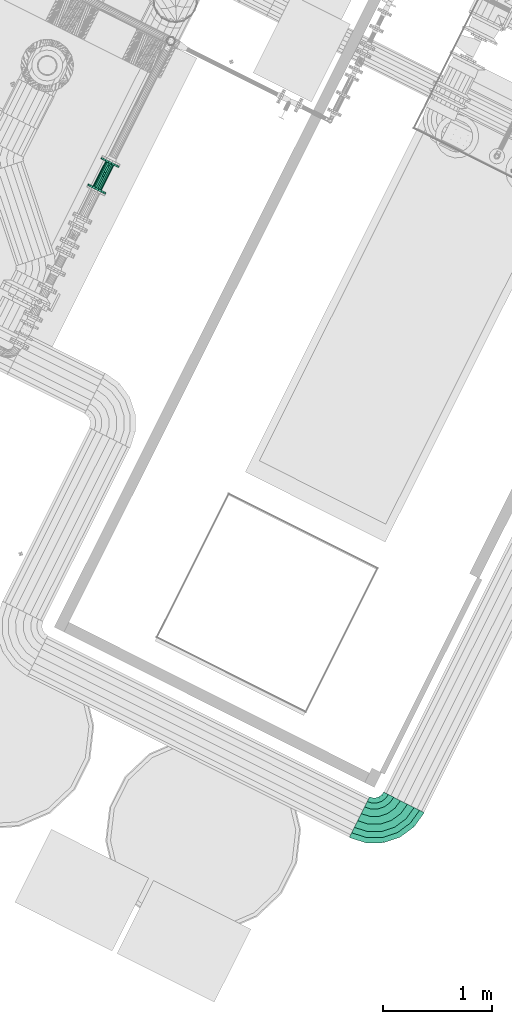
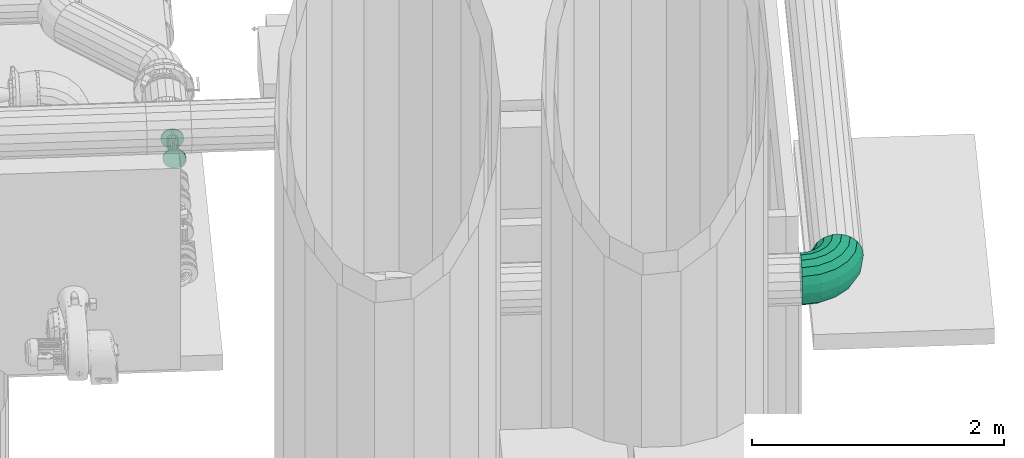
# One storey, part 82 of 206: 1 flow controller, 1 flow segment.
"""IFC2X3 building model written with IfcOpenShell, lengths in metres."""

from ifc_helpers import new_model, si_unit, derived_unit, direction, frame, origin, place, context, subcontext, project, spatial, face_set, surface_model, source, transform, mapped, material, type_object, type_shapes, element, save


model = new_model("IFC2X3")

# Units and contexts
model_context = context("Model", 3, precision=5.2338327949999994e-05, world=origin(), true_north=direction((0.0, 1.0)))
body_context = subcontext(model_context, "Body", "Model", "MODEL_VIEW")
ifc_project = project(units=[si_unit("LENGTHUNIT", "METRE"), si_unit("AREAUNIT", "SQUARE_METRE"), si_unit("VOLUMEUNIT", "CUBIC_METRE"), si_unit("MASSUNIT", "GRAM", prefix="KILO"), si_unit("PLANEANGLEUNIT", "RADIAN"), derived_unit("THERMALTRANSMITTANCEUNIT", [(si_unit("MASSUNIT", "GRAM", prefix="KILO"), 1), (si_unit("THERMODYNAMICTEMPERATUREUNIT", "KELVIN"), -1), (si_unit("TIMEUNIT", "SECOND"), -3)])], contexts=[model_context])

# Site, building, storey
site_placement = place(None, frame((0.0, 0.0, 0.0), z_axis=(0.0, 0.0, 1.0), x_axis=(0.8939966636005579, -0.4480736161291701, 0.0)))
site = spatial("IfcSite", under=ifc_project, at=site_placement, Name="Default", CompositionType="ELEMENT")
building_placement = place(site_placement, origin())
building = spatial("IfcBuilding", under=site, at=building_placement, CompositionType="ELEMENT")
storey_placement = place(building_placement, origin())
storey = spatial("IfcBuildingStorey", under=building, at=storey_placement, Name="Erdgeschoss", CompositionType="ELEMENT", Elevation=0.0)

# Flow segment
ifc_material_1 = material(Name="IfcSurfaceStyle #9317")
distribution_element_type_1 = type_object("IfcDistributionElementType", Name="Rohrbogen 342627:Rohrbogen 342627", material=ifc_material_1)
shared_shape_1 = source(origin(), body_context, "Body", "SurfaceModel", [
    surface_model("IfcFaceBasedSurfaceModel", [(32.190394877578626, 2.367318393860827, 2.3539999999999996), (32.190394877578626, 2.3739250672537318, 2.316531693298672), (32.31645629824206, 2.3938912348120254, 2.3165316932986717), (32.31849787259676, 2.3876079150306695, 2.3539999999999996), (32.43017794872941, 2.4518353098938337, 2.31653169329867), (32.43406125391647, 2.44649039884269, 2.353999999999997), (32.520427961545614, 2.542085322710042, 2.3165316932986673), (32.525772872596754, 2.5382020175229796, 2.353999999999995), (32.57837203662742, 2.6558069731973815, 2.316531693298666), (32.584655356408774, 2.6537653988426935, 2.353999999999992), (32.598338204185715, 2.781868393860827, 2.3165316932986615), (32.60494487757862, 2.7818683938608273, 2.3539999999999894), (32.19039487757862, 2.392948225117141, 2.283582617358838), (32.31057781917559, 2.411983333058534, 2.2835826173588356), (32.41899641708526, 2.4672253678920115, 2.2835826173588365), (32.50503790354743, 2.553266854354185, 2.2835826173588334), (32.56027993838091, 2.6616854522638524, 2.283582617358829), (32.5793150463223, 2.781868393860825, 2.2835826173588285), (32.19039487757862, 2.4220933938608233, 2.2591269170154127), (32.30157146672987, 2.4397020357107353, 2.2591269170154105), (32.40186531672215, 2.490804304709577, 2.25912691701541), (32.481458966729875, 2.5703979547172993, 2.259126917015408), (32.532561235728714, 2.6706918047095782, 2.2591269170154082), (32.550169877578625, 2.781868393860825, 2.2591269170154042), (32.190394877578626, 2.4578452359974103, 2.24611431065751), (32.29052353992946, 2.4737040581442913, 2.246114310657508), (32.38085091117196, 2.519728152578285, 2.2461143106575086), (32.45253511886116, 2.5914123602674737, 2.2461143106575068), (32.49855921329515, 2.6817397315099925, 2.246114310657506), (32.51441803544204, 2.781868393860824, 2.246114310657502), (32.190394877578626, 2.495891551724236, 2.246114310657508), (32.27876658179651, 2.5098882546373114, 2.246114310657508), (32.35848784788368, 2.550508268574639, 2.246114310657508), (32.4217550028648, 2.6137754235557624, 2.246114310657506), (32.462375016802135, 2.6934966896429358, 2.2461143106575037), (32.47637171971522, 2.781868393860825, 2.2461143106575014), (32.19039487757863, 2.531643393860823, 2.25912691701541), (32.2677186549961, 2.543890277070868, 2.25912691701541), (32.337473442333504, 2.5794321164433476, 2.259126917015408), (32.39283115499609, 2.6347898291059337, 2.2591269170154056), (32.42837299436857, 2.7045446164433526, 2.259126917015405), (32.44061987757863, 2.7818683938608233, 2.2591269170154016), (32.190394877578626, 2.5607885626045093, 2.283582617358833), (32.25871230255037, 2.5716089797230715, 2.2835826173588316), (32.320342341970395, 2.6030110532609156, 2.2835826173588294), (32.36925221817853, 2.651920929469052, 2.2835826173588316), (32.400654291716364, 2.713550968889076, 2.283582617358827), (32.41147470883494, 2.7818683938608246, 2.2835826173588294), (32.190394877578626, 2.579811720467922, 2.3165316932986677), (32.252833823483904, 2.5897010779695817, 2.3165316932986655), (32.30916081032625, 2.6184011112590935, 2.316531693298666), (32.35386216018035, 2.663102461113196, 2.316531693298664), (32.38256219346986, 2.7194294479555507, 2.316531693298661), (32.39245155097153, 2.781868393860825, 2.3165316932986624), (32.190394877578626, 2.5864183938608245, 2.3539999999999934), (32.25079224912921, 2.5959843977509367, 2.3539999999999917), (32.30527750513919, 2.6237460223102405, 2.3539999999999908), (32.3485172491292, 2.666985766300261, 2.3539999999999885), (32.3762788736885, 2.7214710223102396, 2.3539999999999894), (32.38584487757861, 2.781868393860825, 2.3539999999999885), (32.190394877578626, 2.579811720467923, 2.3914683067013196), (32.252833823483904, 2.589701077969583, 2.391468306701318), (32.309160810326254, 2.6184011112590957, 2.391468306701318), (32.35386216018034, 2.663102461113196, 2.3914683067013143), (32.38256219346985, 2.7194294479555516, 2.3914683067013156), (32.392451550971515, 2.7818683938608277, 2.3914683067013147), (32.190394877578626, 2.5607885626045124, 2.4244173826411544), (32.25871230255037, 2.571608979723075, 2.424417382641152), (32.320342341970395, 2.6030110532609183, 2.424417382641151), (32.369252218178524, 2.6519209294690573, 2.4244173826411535), (32.40065429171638, 2.713550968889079, 2.424417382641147), (32.411474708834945, 2.7818683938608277, 2.4244173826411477), (32.190394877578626, 2.5316433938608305, 2.4488730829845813), (32.267718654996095, 2.543890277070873, 2.448873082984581), (32.337473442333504, 2.5794321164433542, 2.4488730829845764), (32.39283115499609, 2.6347898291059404, 2.4488730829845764), (32.42837299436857, 2.704544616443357, 2.4488730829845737), (32.44061987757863, 2.781868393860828, 2.448873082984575), (32.19039487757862, 2.495891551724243, 2.461885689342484), (32.27876658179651, 2.5098882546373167, 2.461885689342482), (32.35848784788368, 2.550508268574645, 2.4618856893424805), (32.421755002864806, 2.6137754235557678, 2.4618856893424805), (32.462375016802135, 2.693496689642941, 2.461885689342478), (32.4763717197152, 2.7818683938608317, 2.4618856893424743), (32.19039487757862, 2.4578452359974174, 2.461885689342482), (32.29052353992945, 2.473704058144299, 2.4618856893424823), (32.38085091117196, 2.519728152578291, 2.4618856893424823), (32.45253511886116, 2.591412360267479, 2.461885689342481), (32.498559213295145, 2.681739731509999, 2.4618856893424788), (32.514418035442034, 2.78186839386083, 2.4618856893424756), (32.190394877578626, 2.42209339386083, 2.448873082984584), (32.301571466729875, 2.4397020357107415, 2.448873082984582), (32.40186531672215, 2.4908043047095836, 2.4488730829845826), (32.48145896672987, 2.5703979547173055, 2.448873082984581), (32.5325612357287, 2.6706918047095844, 2.4488730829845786), (32.550169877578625, 2.7818683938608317, 2.448873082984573), (32.19039487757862, 2.392948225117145, 2.4244173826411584), (32.31057781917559, 2.4119833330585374, 2.4244173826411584), (32.41899641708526, 2.4672253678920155, 2.424417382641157), (32.50503790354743, 2.5532668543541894, 2.4244173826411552), (32.5602799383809, 2.6616854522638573, 2.4244173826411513), (32.5793150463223, 2.781868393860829, 2.424417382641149), (32.190394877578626, 2.373925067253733, 2.3914683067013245), (32.31645629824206, 2.3938912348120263, 2.391468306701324), (32.4301779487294, 2.451835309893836, 2.391468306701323), (32.520427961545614, 2.5420853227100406, 2.391468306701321), (32.57837203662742, 2.655806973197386, 2.391468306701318), (32.59833820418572, 2.781868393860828, 2.391468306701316), (32.190394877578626, 2.2673183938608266, 2.354000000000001), (32.19039487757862, 2.2799558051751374, 2.282329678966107), (32.34549439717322, 2.304521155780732, 2.282329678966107), (32.34939957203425, 2.292502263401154, 2.3540000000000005), (32.485411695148, 2.3758125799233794, 2.2823296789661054), (32.49283977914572, 2.3655886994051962, 2.353999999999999), (32.59645069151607, 2.48685157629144, 2.2823296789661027), (32.60667457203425, 2.479423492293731, 2.353999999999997), (32.66774211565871, 2.626768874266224, 2.282329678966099), (32.67976100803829, 2.6228636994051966, 2.3539999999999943), (32.69230746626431, 2.781868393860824, 2.282329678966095), (32.70494487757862, 2.781868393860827, 2.3539999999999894), (32.19039487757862, 2.3163437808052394, 2.2193038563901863), (32.33424989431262, 2.339128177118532, 2.2193038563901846), (32.464023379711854, 2.405251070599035, 2.2193038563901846), (32.56701220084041, 2.5082398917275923, 2.2193038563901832), (32.63313509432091, 2.638013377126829, 2.2193038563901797), (32.655919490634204, 2.7818683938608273, 2.2193038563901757), (32.190394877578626, 2.372093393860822, 2.172524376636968), (32.31702231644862, 2.392149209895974, 2.1725243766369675), (32.43125457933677, 2.450353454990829, 2.172524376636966), (32.52190981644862, 2.5410086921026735, 2.172524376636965), (32.58011406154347, 2.65524095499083, 2.1725243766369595), (32.60016987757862, 2.7818683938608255, 2.1725243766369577), (32.19039487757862, 2.440480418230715, 2.14763353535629), (32.295889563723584, 2.457189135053, 2.147633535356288), (32.39105769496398, 2.5056797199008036, 2.147633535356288), (32.46658355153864, 2.5812055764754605, 2.147633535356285), (32.515074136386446, 2.6763737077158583, 2.1476335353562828), (32.53178285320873, 2.78186839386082, 2.1476335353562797), (32.19039487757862, 2.513256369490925, 2.1476335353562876), (32.273400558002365, 2.526403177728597, 2.147633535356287), (32.34828106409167, 2.5645567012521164, 2.1476335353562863), (32.40770657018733, 2.623982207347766, 2.1476335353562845), (32.44586009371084, 2.698862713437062, 2.147633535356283), (32.45900690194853, 2.7818683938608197, 2.147633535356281), (32.190394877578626, 2.5816433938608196, 2.172524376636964), (32.25226780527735, 2.5914431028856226, 2.172524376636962), (32.30808417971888, 2.6198829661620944, 2.1725243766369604), (32.35238030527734, 2.6641790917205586, 2.1725243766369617), (32.380820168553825, 2.719995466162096, 2.172524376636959), (32.39061987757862, 2.781868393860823, 2.1725243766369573), (32.190394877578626, 2.6373930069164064, 2.219303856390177), (32.23504022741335, 2.644464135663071, 2.219303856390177), (32.275315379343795, 2.6649853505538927, 2.219303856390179), (32.307277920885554, 2.6969478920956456, 2.219303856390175), (32.327799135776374, 2.7372230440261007, 2.2193038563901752), (32.33487026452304, 2.781868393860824, 2.2193038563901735), (32.19039487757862, 2.6737809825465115, 2.2823296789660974), (32.22379572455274, 2.679071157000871, 2.2823296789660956), (32.253927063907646, 2.6944238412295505, 2.2823296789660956), (32.277839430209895, 2.718336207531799, 2.282329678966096), (32.293192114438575, 2.7484675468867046, 2.2823296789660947), (32.29848228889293, 2.781868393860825, 2.282329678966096), (32.190394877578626, 2.686418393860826, 2.3539999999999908), (32.21989054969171, 2.691090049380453, 2.353999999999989), (32.24649897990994, 2.7046477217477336, 2.3539999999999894), (32.267615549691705, 2.725764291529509, 2.3539999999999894), (32.28117322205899, 2.7523727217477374, 2.353999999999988), (32.28584487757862, 2.7818683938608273, 2.353999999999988), (32.190394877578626, 2.673780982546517, 2.425670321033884), (32.223795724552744, 2.679071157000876, 2.425670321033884), (32.253927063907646, 2.6944238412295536, 2.425670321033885), (32.277839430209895, 2.7183362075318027, 2.4256703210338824), (32.29319211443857, 2.7484675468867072, 2.4256703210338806), (32.29848228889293, 2.7818683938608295, 2.425670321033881), (32.19039487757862, 2.637393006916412, 2.4886961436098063), (32.23504022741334, 2.6444641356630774, 2.4886961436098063), (32.275315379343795, 2.6649853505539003, 2.4886961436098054), (32.307277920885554, 2.6969478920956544, 2.4886961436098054), (32.32779913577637, 2.7372230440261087, 2.488696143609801), (32.33487026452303, 2.7818683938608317, 2.4886961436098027), (32.190394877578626, 2.58164339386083, 2.535475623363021), (32.25226780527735, 2.591443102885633, 2.535475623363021), (32.30808417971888, 2.619882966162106, 2.5354756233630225), (32.35238030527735, 2.6641790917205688, 2.5354756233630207), (32.38082016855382, 2.7199954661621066, 2.5354756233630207), (32.39061987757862, 2.7818683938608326, 2.535475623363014), (32.19039487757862, 2.513256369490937, 2.560366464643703), (32.273400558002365, 2.526403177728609, 2.5603664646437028), (32.34828106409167, 2.5645567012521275, 2.5603664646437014), (32.40770657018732, 2.623982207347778, 2.560366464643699), (32.44586009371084, 2.698862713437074, 2.560366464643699), (32.45900690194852, 2.7818683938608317, 2.5603664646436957), (32.19039487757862, 2.440480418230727, 2.5603664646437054), (32.295889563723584, 2.4571891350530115, 2.5603664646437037), (32.39105769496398, 2.505679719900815, 2.5603664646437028), (32.46658355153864, 2.581205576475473, 2.5603664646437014), (32.515074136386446, 2.6763737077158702, 2.560366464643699), (32.53178285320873, 2.7818683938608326, 2.5603664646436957), (32.19039487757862, 2.3720933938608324, 2.5354756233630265), (32.317022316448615, 2.392149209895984, 2.5354756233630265), (32.431254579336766, 2.4503534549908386, 2.5354756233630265), (32.52190981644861, 2.5410086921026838, 2.5354756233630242), (32.58011406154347, 2.655240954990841, 2.5354756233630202), (32.60016987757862, 2.7818683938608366, 2.5354756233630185), (32.19039487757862, 2.316343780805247, 2.4886961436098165), (32.33424989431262, 2.339128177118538, 2.4886961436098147), (32.464023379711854, 2.405251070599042, 2.4886961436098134), (32.56701220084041, 2.5082398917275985, 2.488696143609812), (32.63313509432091, 2.638013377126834, 2.4886961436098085), (32.655919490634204, 2.7818683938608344, 2.488696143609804), (32.19039487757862, 2.279955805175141, 2.4256703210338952), (32.34549439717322, 2.3045211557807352, 2.4256703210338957), (32.485411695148, 2.3758125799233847, 2.4256703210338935), (32.59645069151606, 2.486851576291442, 2.425670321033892), (32.66774211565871, 2.6267688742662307, 2.425670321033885), (32.6923074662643, 2.781868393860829, 2.4256703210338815)], [face_set([[[0, 1, 2, 3]], [[3, 2, 4, 5]], [[5, 4, 6, 7]], [[7, 6, 8, 9]], [[9, 8, 10, 11]], [[1, 12, 13, 2]], [[2, 13, 14, 4]], [[4, 14, 15, 6]], [[6, 15, 16, 8]], [[8, 16, 17, 10]], [[12, 18, 19, 13]], [[13, 19, 20, 14]], [[14, 20, 21, 15]], [[15, 21, 22, 16]], [[16, 22, 23, 17]], [[18, 24, 25, 19]], [[19, 25, 26, 20]], [[20, 26, 27, 21]], [[21, 27, 28, 22]], [[22, 28, 29, 23]], [[24, 30, 31, 25]], [[25, 31, 32, 26]], [[26, 32, 33, 27]], [[27, 33, 34, 28]], [[28, 34, 35, 29]], [[30, 36, 37, 31]], [[31, 37, 38, 32]], [[32, 38, 39, 33]], [[33, 39, 40, 34]], [[34, 40, 41, 35]], [[36, 42, 43, 37]], [[37, 43, 44, 38]], [[38, 44, 45, 39]], [[39, 45, 46, 40]], [[40, 46, 47, 41]], [[42, 48, 49, 43]], [[43, 49, 50, 44]], [[44, 50, 51, 45]], [[45, 51, 52, 46]], [[46, 52, 53, 47]], [[48, 54, 55, 49]], [[49, 55, 56, 50]], [[50, 56, 57, 51]], [[51, 57, 58, 52]], [[52, 58, 59, 53]], [[54, 60, 61, 55]], [[55, 61, 62, 56]], [[56, 62, 63, 57]], [[57, 63, 64, 58]], [[58, 64, 65, 59]], [[60, 66, 67, 61]], [[61, 67, 68, 62]], [[62, 68, 69, 63]], [[63, 69, 70, 64]], [[64, 70, 71, 65]], [[66, 72, 73, 67]], [[67, 73, 74, 68]], [[68, 74, 75, 69]], [[69, 75, 76, 70]], [[70, 76, 77, 71]], [[72, 78, 79, 73]], [[73, 79, 80, 74]], [[74, 80, 81, 75]], [[75, 81, 82, 76]], [[76, 82, 83, 77]], [[78, 84, 85, 79]], [[79, 85, 86, 80]], [[80, 86, 87, 81]], [[81, 87, 88, 82]], [[82, 88, 89, 83]], [[84, 90, 91, 85]], [[85, 91, 92, 86]], [[86, 92, 93, 87]], [[87, 93, 94, 88]], [[88, 94, 95, 89]], [[90, 96, 97, 91]], [[91, 97, 98, 92]], [[92, 98, 99, 93]], [[93, 99, 100, 94]], [[94, 100, 101, 95]], [[96, 102, 103, 97]], [[97, 103, 104, 98]], [[98, 104, 105, 99]], [[99, 105, 106, 100]], [[100, 106, 107, 101]], [[102, 0, 3, 103]], [[103, 3, 5, 104]], [[104, 5, 7, 105]], [[105, 7, 9, 106]], [[106, 9, 11, 107]], [[108, 109, 110, 111]], [[111, 110, 112, 113]], [[113, 112, 114, 115]], [[115, 114, 116, 117]], [[117, 116, 118, 119]], [[109, 120, 121, 110]], [[110, 121, 122, 112]], [[112, 122, 123, 114]], [[114, 123, 124, 116]], [[116, 124, 125, 118]], [[120, 126, 127, 121]], [[121, 127, 128, 122]], [[122, 128, 129, 123]], [[123, 129, 130, 124]], [[124, 130, 131, 125]], [[126, 132, 133, 127]], [[127, 133, 134, 128]], [[128, 134, 135, 129]], [[129, 135, 136, 130]], [[130, 136, 137, 131]], [[132, 138, 139, 133]], [[133, 139, 140, 134]], [[134, 140, 141, 135]], [[135, 141, 142, 136]], [[136, 142, 143, 137]], [[138, 144, 145, 139]], [[139, 145, 146, 140]], [[140, 146, 147, 141]], [[141, 147, 148, 142]], [[142, 148, 149, 143]], [[144, 150, 151, 145]], [[145, 151, 152, 146]], [[146, 152, 153, 147]], [[147, 153, 154, 148]], [[148, 154, 155, 149]], [[150, 156, 157, 151]], [[151, 157, 158, 152]], [[152, 158, 159, 153]], [[153, 159, 160, 154]], [[154, 160, 161, 155]], [[156, 162, 163, 157]], [[157, 163, 164, 158]], [[158, 164, 165, 159]], [[159, 165, 166, 160]], [[160, 166, 167, 161]], [[162, 168, 169, 163]], [[163, 169, 170, 164]], [[164, 170, 171, 165]], [[165, 171, 172, 166]], [[166, 172, 173, 167]], [[168, 174, 175, 169]], [[169, 175, 176, 170]], [[170, 176, 177, 171]], [[171, 177, 178, 172]], [[172, 178, 179, 173]], [[174, 180, 181, 175]], [[175, 181, 182, 176]], [[176, 182, 183, 177]], [[177, 183, 184, 178]], [[178, 184, 185, 179]], [[180, 186, 187, 181]], [[181, 187, 188, 182]], [[182, 188, 189, 183]], [[183, 189, 190, 184]], [[184, 190, 191, 185]], [[186, 192, 193, 187]], [[187, 193, 194, 188]], [[188, 194, 195, 189]], [[189, 195, 196, 190]], [[190, 196, 197, 191]], [[192, 198, 199, 193]], [[193, 199, 200, 194]], [[194, 200, 201, 195]], [[195, 201, 202, 196]], [[196, 202, 203, 197]], [[198, 204, 205, 199]], [[199, 205, 206, 200]], [[200, 206, 207, 201]], [[201, 207, 208, 202]], [[202, 208, 209, 203]], [[204, 210, 211, 205]], [[205, 211, 212, 206]], [[206, 212, 213, 207]], [[207, 213, 214, 208]], [[208, 214, 215, 209]], [[210, 108, 111, 211]], [[211, 111, 113, 212]], [[212, 113, 115, 213]], [[213, 115, 117, 214]], [[214, 117, 119, 215]]])]),
])
type_shapes(distribution_element_type_1, [shared_shape_1])
flow_segment_placement = place(storey_placement, origin())
element("IfcFlowSegment", 1, at=flow_segment_placement, inside=storey, type_object=distribution_element_type_1, material=ifc_material_1, Name="Rohrbogen", ObjectType="Rohrbogen", context=body_context, shape_type="MappedRepresentation", body=[
    mapped(shared_shape_1, transform((0.0, 0.0, 0.0), scale=1.0)),
])

# Flow controller
ifc_material_2 = material(Name="IfcSurfaceStyle #352577")
distribution_element_type_2 = type_object("IfcDistributionElementType", Name="Absperrklappe 604707:Absperrklappe 604707", material=ifc_material_2)
shared_shape_2 = source(origin(), body_context, "Body", "SurfaceModel", [
    surface_model("IfcFaceBasedSurfaceModel", [(27.453642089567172, 6.700958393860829, 0.9219999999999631), (27.453642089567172, 6.68495839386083, 0.9219999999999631), (27.437642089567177, 6.68495839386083, 0.9219999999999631), (27.437642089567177, 6.700958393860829, 0.9219999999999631), (27.453642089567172, 6.68495839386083, 0.9379999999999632), (27.437642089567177, 6.68495839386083, 0.9379999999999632), (27.453642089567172, 6.700958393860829, 0.9379999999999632), (27.437642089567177, 6.700958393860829, 0.9379999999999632), (27.453642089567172, 6.7262917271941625, 0.9699999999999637), (27.437642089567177, 6.7262917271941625, 0.9699999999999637), (27.453642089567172, 6.792958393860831, 0.9699999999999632), (27.437642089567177, 6.792958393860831, 0.9699999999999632), (27.453642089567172, 6.792958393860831, 0.9539999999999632), (27.437642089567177, 6.792958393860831, 0.9539999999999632), (27.453642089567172, 6.7262917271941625, 0.9539999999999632), (27.437642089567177, 6.7262917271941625, 0.9539999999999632), (27.538142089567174, 6.54795839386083, 0.8699999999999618), (27.532563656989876, 6.54795839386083, 0.8383631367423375), (27.532563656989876, 6.56595839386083, 0.8383631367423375), (27.538142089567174, 6.56595839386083, 0.8699999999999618), (27.51650120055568, 6.54795839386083, 0.8105421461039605), (27.51650120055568, 6.56595839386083, 0.8105421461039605), (27.491892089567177, 6.54795839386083, 0.7898926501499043), (27.491892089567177, 6.56595839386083, 0.7898926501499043), (27.461704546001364, 6.54795839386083, 0.7789052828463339), (27.461704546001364, 6.56595839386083, 0.7789052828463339), (27.429579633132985, 6.54795839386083, 0.7789052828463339), (27.429579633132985, 6.56595839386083, 0.7789052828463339), (27.399392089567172, 6.54795839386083, 0.7898926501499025), (27.399392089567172, 6.56595839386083, 0.7898926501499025), (27.37478297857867, 6.54795839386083, 0.81054214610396), (27.37478297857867, 6.56595839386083, 0.81054214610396), (27.358720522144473, 6.54795839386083, 0.838363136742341), (27.358720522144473, 6.56595839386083, 0.838363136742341), (27.353142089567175, 6.54795839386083, 0.8699999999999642), (27.353142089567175, 6.56595839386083, 0.8699999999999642), (27.358720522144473, 6.54795839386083, 0.9016368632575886), (27.358720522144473, 6.56595839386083, 0.9016368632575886), (27.37478297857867, 6.54795839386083, 0.9294578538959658), (27.37478297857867, 6.56595839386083, 0.9294578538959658), (27.399392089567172, 6.54795839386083, 0.950107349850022), (27.399392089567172, 6.56595839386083, 0.950107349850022), (27.429579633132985, 6.54795839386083, 0.9610947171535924), (27.429579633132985, 6.56595839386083, 0.9610947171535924), (27.461704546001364, 6.54795839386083, 0.9610947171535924), (27.461704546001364, 6.56595839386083, 0.9610947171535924), (27.491892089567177, 6.54795839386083, 0.9501073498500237), (27.491892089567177, 6.56595839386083, 0.9501073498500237), (27.51650120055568, 6.54795839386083, 0.9294578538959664), (27.51650120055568, 6.56595839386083, 0.9294578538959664), (27.532563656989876, 6.54795839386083, 0.9016368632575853), (27.532563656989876, 6.56595839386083, 0.9016368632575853), (27.445642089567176, 6.54795839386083, 0.869999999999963), (27.445642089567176, 6.565958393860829, 0.869999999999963), (27.490642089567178, 6.56595839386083, 0.869999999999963), (27.487928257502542, 6.56595839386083, 0.8546090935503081), (27.487928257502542, 6.819958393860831, 0.8546090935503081), (27.490642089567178, 6.819958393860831, 0.869999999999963), (27.480114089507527, 6.56595839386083, 0.841074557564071), (27.480114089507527, 6.819958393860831, 0.841074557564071), (27.468142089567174, 6.56595839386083, 0.8310288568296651), (27.468142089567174, 6.819958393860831, 0.8310288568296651), (27.453456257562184, 6.56595839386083, 0.8256836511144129), (27.453456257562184, 6.819958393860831, 0.8256836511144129), (27.437827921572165, 6.56595839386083, 0.8256836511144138), (27.437827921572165, 6.819958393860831, 0.8256836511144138), (27.423142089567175, 6.56595839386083, 0.8310288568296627), (27.423142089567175, 6.819958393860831, 0.8310288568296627), (27.411170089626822, 6.56595839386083, 0.8410745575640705), (27.411170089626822, 6.819958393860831, 0.8410745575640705), (27.403355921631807, 6.56595839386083, 0.8546090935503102), (27.403355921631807, 6.819958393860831, 0.8546090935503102), (27.40064208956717, 6.56595839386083, 0.869999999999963), (27.40064208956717, 6.819958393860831, 0.869999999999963), (27.403355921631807, 6.56595839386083, 0.8853909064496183), (27.403355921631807, 6.819958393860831, 0.8853909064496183), (27.411170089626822, 6.56595839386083, 0.8989254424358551), (27.411170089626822, 6.819958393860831, 0.8989254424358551), (27.423142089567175, 6.56595839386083, 0.9089711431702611), (27.423142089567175, 6.819958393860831, 0.9089711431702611), (27.437827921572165, 6.56595839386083, 0.9143163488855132), (27.437827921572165, 6.819958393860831, 0.9143163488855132), (27.453456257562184, 6.56595839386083, 0.9143163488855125), (27.453456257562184, 6.819958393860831, 0.9143163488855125), (27.468142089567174, 6.56595839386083, 0.9089711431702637), (27.468142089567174, 6.819958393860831, 0.9089711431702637), (27.480114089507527, 6.56595839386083, 0.8989254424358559), (27.480114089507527, 6.819958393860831, 0.8989254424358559), (27.487928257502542, 6.56595839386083, 0.885390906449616), (27.487928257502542, 6.819958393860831, 0.885390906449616), (27.538142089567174, 6.819958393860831, 0.8699999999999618), (27.532563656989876, 6.819958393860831, 0.8383631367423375), (27.532563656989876, 6.83795839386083, 0.8383631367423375), (27.538142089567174, 6.83795839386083, 0.8699999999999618), (27.51650120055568, 6.819958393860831, 0.8105421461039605), (27.51650120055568, 6.83795839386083, 0.8105421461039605), (27.491892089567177, 6.819958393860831, 0.7898926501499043), (27.491892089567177, 6.83795839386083, 0.7898926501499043), (27.461704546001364, 6.819958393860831, 0.7789052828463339), (27.461704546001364, 6.83795839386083, 0.7789052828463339), (27.429579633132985, 6.819958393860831, 0.7789052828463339), (27.429579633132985, 6.83795839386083, 0.7789052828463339), (27.399392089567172, 6.819958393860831, 0.7898926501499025), (27.399392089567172, 6.83795839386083, 0.7898926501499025), (27.37478297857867, 6.819958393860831, 0.81054214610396), (27.37478297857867, 6.83795839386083, 0.81054214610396), (27.358720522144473, 6.819958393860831, 0.838363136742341), (27.358720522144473, 6.83795839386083, 0.838363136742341), (27.353142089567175, 6.819958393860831, 0.8699999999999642), (27.353142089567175, 6.83795839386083, 0.8699999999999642), (27.358720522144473, 6.819958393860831, 0.9016368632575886), (27.358720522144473, 6.83795839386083, 0.9016368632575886), (27.37478297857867, 6.819958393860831, 0.9294578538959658), (27.37478297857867, 6.83795839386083, 0.9294578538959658), (27.399392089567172, 6.819958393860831, 0.950107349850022), (27.399392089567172, 6.83795839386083, 0.950107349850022), (27.429579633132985, 6.819958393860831, 0.9610947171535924), (27.429579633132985, 6.83795839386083, 0.9610947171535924), (27.461704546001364, 6.819958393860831, 0.9610947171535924), (27.461704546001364, 6.83795839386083, 0.9610947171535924), (27.491892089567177, 6.819958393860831, 0.9501073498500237), (27.491892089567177, 6.83795839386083, 0.9501073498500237), (27.51650120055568, 6.819958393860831, 0.9294578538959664), (27.51650120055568, 6.83795839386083, 0.9294578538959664), (27.532563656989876, 6.819958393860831, 0.9016368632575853), (27.532563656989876, 6.83795839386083, 0.9016368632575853), (27.445642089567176, 6.819958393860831, 0.869999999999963), (27.445642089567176, 6.837958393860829, 0.869999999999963), (27.445642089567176, 6.7009583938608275, 0.869999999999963), (27.439985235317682, 6.69861524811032, 0.869999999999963), (27.439985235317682, 6.69861524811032, 0.9219999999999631), (27.445642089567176, 6.7009583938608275, 0.9219999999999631), (27.437642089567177, 6.6929583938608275, 0.869999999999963), (27.437642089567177, 6.6929583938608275, 0.9219999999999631), (27.439985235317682, 6.687301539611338, 0.869999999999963), (27.439985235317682, 6.687301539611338, 0.9219999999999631), (27.445642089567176, 6.684958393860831, 0.869999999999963), (27.445642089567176, 6.684958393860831, 0.9219999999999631), (27.451298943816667, 6.687301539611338, 0.869999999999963), (27.451298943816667, 6.687301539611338, 0.9219999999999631), (27.453642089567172, 6.69295839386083, 0.869999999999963), (27.453642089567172, 6.69295839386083, 0.9219999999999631), (27.451298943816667, 6.69861524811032, 0.869999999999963), (27.451298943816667, 6.69861524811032, 0.9219999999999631)], [face_set([[[0, 1, 2, 3]], [[1, 4, 5, 2]], [[4, 6, 7, 5]], [[6, 8, 9, 7]], [[8, 10, 11, 9]], [[10, 12, 13, 11]], [[12, 14, 15, 13]], [[14, 0, 3, 15]], [[2, 7, 3]], [[9, 3, 7]], [[3, 9, 15]], [[11, 15, 9]], [[15, 11, 13]], [[7, 2, 5]], [[0, 6, 1]], [[6, 0, 8]], [[14, 8, 0]], [[8, 14, 10]], [[12, 10, 14]], [[4, 1, 6]], [[16, 17, 18, 19]], [[17, 20, 21, 18]], [[20, 22, 23, 21]], [[22, 24, 25, 23]], [[24, 26, 27, 25]], [[26, 28, 29, 27]], [[28, 30, 31, 29]], [[30, 32, 33, 31]], [[32, 34, 35, 33]], [[34, 36, 37, 35]], [[36, 38, 39, 37]], [[38, 40, 41, 39]], [[40, 42, 43, 41]], [[42, 44, 45, 43]], [[44, 46, 47, 45]], [[46, 48, 49, 47]], [[48, 50, 51, 49]], [[50, 16, 19, 51]], [[52, 17, 16]], [[52, 20, 17]], [[52, 22, 20]], [[52, 24, 22]], [[52, 26, 24]], [[52, 28, 26]], [[52, 30, 28]], [[52, 32, 30]], [[52, 34, 32]], [[52, 36, 34]], [[52, 38, 36]], [[52, 40, 38]], [[52, 42, 40]], [[52, 44, 42]], [[52, 46, 44]], [[52, 48, 46]], [[52, 50, 48]], [[52, 16, 50]], [[53, 51, 19]], [[53, 49, 51]], [[53, 47, 49]], [[53, 45, 47]], [[53, 43, 45]], [[53, 41, 43]], [[53, 39, 41]], [[53, 37, 39]], [[53, 35, 37]], [[53, 33, 35]], [[53, 31, 33]], [[53, 29, 31]], [[53, 27, 29]], [[53, 25, 27]], [[53, 23, 25]], [[53, 21, 23]], [[53, 18, 21]], [[53, 19, 18]], [[54, 55, 56, 57]], [[55, 58, 59, 56]], [[58, 60, 61, 59]], [[60, 62, 63, 61]], [[62, 64, 65, 63]], [[64, 66, 67, 65]], [[66, 68, 69, 67]], [[68, 70, 71, 69]], [[70, 72, 73, 71]], [[72, 74, 75, 73]], [[74, 76, 77, 75]], [[76, 78, 79, 77]], [[78, 80, 81, 79]], [[80, 82, 83, 81]], [[82, 84, 85, 83]], [[84, 86, 87, 85]], [[86, 88, 89, 87]], [[88, 54, 57, 89]], [[90, 91, 92, 93]], [[91, 94, 95, 92]], [[94, 96, 97, 95]], [[96, 98, 99, 97]], [[98, 100, 101, 99]], [[100, 102, 103, 101]], [[102, 104, 105, 103]], [[104, 106, 107, 105]], [[106, 108, 109, 107]], [[108, 110, 111, 109]], [[110, 112, 113, 111]], [[112, 114, 115, 113]], [[114, 116, 117, 115]], [[116, 118, 119, 117]], [[118, 120, 121, 119]], [[120, 122, 123, 121]], [[122, 124, 125, 123]], [[124, 90, 93, 125]], [[126, 91, 90]], [[126, 94, 91]], [[126, 96, 94]], [[126, 98, 96]], [[126, 100, 98]], [[126, 102, 100]], [[126, 104, 102]], [[126, 106, 104]], [[126, 108, 106]], [[126, 110, 108]], [[126, 112, 110]], [[126, 114, 112]], [[126, 116, 114]], [[126, 118, 116]], [[126, 120, 118]], [[126, 122, 120]], [[126, 124, 122]], [[126, 90, 124]], [[127, 125, 93]], [[127, 123, 125]], [[127, 121, 123]], [[127, 119, 121]], [[127, 117, 119]], [[127, 115, 117]], [[127, 113, 115]], [[127, 111, 113]], [[127, 109, 111]], [[127, 107, 109]], [[127, 105, 107]], [[127, 103, 105]], [[127, 101, 103]], [[127, 99, 101]], [[127, 97, 99]], [[127, 95, 97]], [[127, 92, 95]], [[127, 93, 92]], [[128, 129, 130, 131]], [[129, 132, 133, 130]], [[132, 134, 135, 133]], [[134, 136, 137, 135]], [[136, 138, 139, 137]], [[138, 140, 141, 139]], [[140, 142, 143, 141]], [[142, 128, 131, 143]]])]),
])
type_shapes(distribution_element_type_2, [shared_shape_2])
flow_controller_placement = place(storey_placement, origin())
element("IfcFlowController", 2, at=flow_controller_placement, inside=storey, type_object=distribution_element_type_2, material=ifc_material_2, Name="Absperrklappe", ObjectType="Absperrklappe", context=body_context, shape_type="MappedRepresentation", body=[
    mapped(shared_shape_2, transform((0.0, 0.0, 0.0), scale=1.0)),
])

save(model, "model.ifc")
